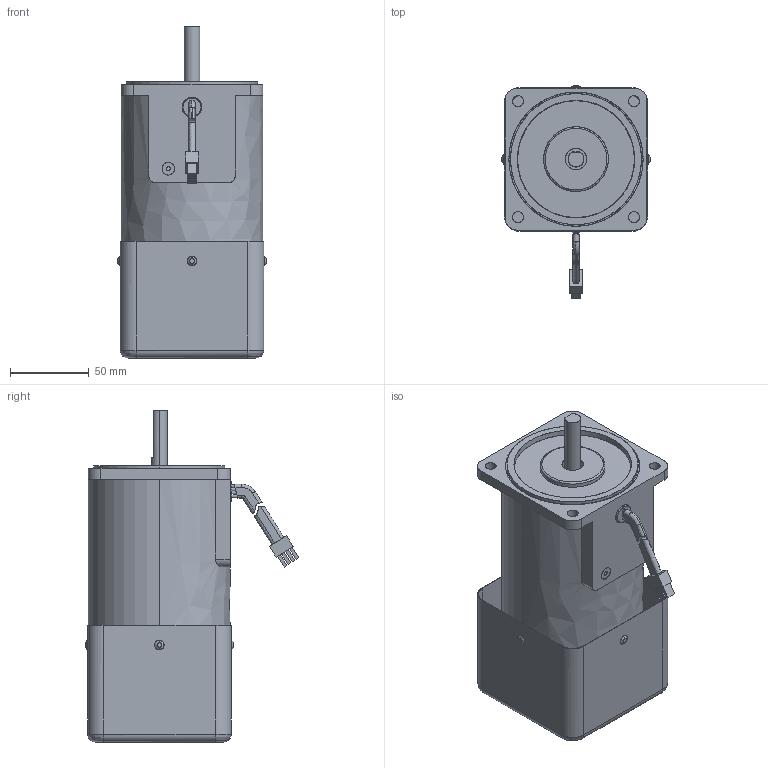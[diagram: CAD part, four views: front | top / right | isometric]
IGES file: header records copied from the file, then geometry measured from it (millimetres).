
Start section: SolidWorks IGES file using analytic representation for surfaces
Global section: file name: \\楷备家烹钦辑滚\data (D)\档搁 枚\权其捞瘤 档搁\7. SPEED INDUCTION\90\120W\(7-98) 9SDD∴-120F2.IGS; native system: SolidWorks 2007; preprocessor: SolidWorks 2007; author: user; date: 150707.175431; units: millimetre
Bounding box: 94 x 135.4 x 210.5 mm (x, y, z)
Surface area: 174970.2 mm2 (no closed solid volume)
Topology: 0 solids, 0 shells, 394 faces, 6998 edges, 6998 vertices
Faces by surface type: revolution 236, bspline 158
